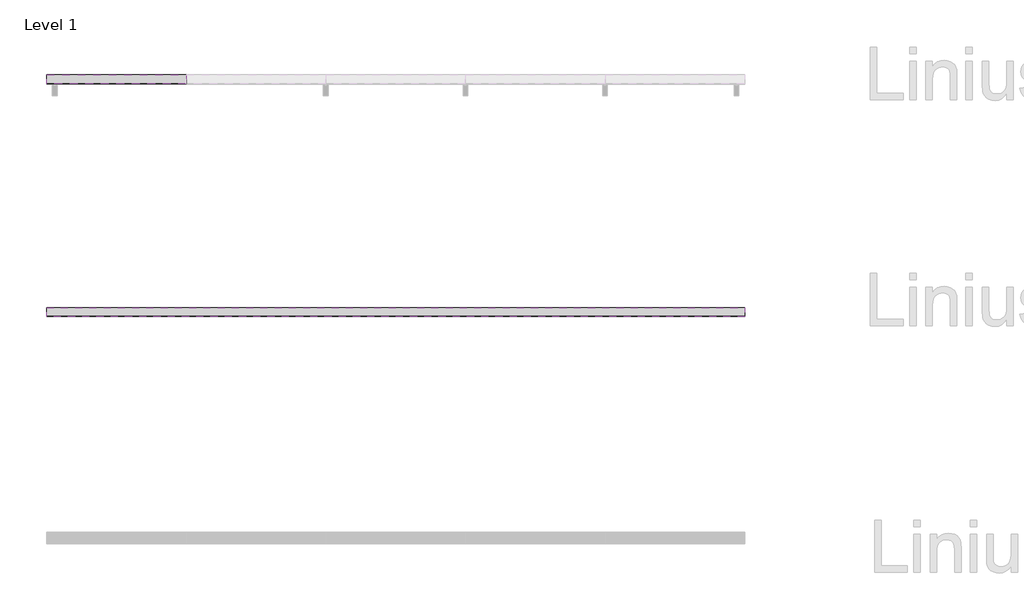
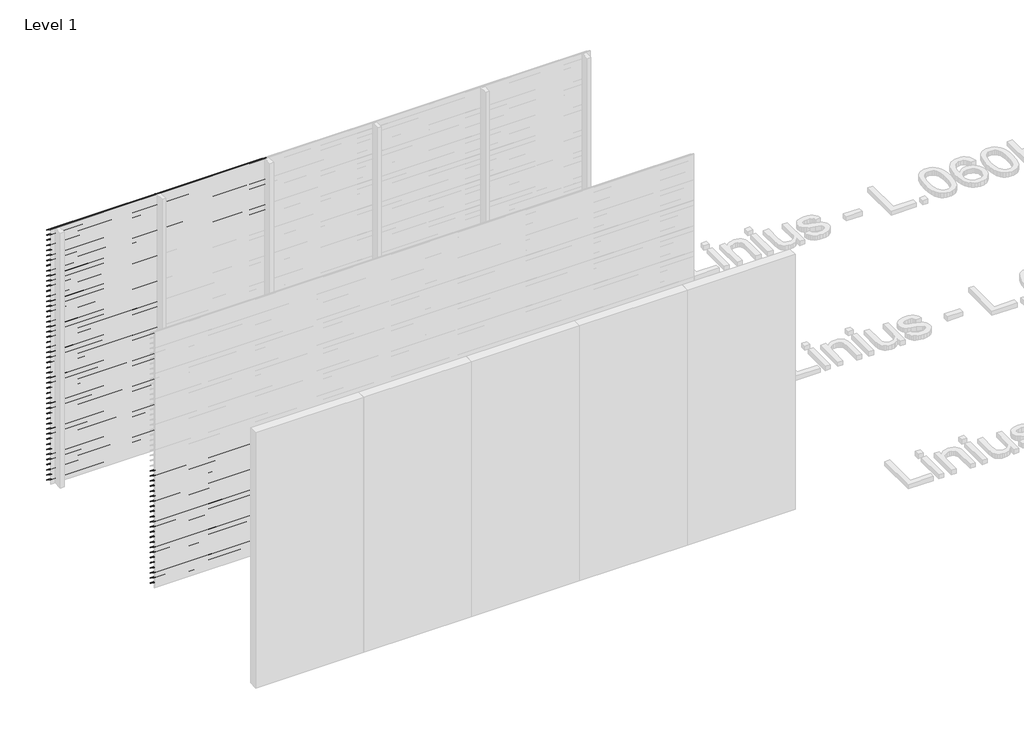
# One storey, part 26 of 153: 85 proxies.
"""IFC4 building model written with IfcOpenShell, lengths in millimetres."""

from ifc_helpers import new_model, si_unit, frame, origin, place, context, project, spatial, polyline, outline, extrude, element, save

model = new_model("IFC4")

# Units and contexts
model_context = context("Model", 3, world=origin())
ifc_project = project(units=[si_unit("LENGTHUNIT", "METRE", prefix="MILLI")], contexts=[model_context])

# Site, building, storey
site = spatial("IfcSite", under=ifc_project)
building = spatial("IfcBuilding", under=site)
storey = spatial("IfcBuildingStorey", under=building, Name="Level 1", Elevation=0.0)

# Proxies
placement = place(None, origin())
element("IfcBuildingElementProxy", 1, Name="Wall Sweeps", at=placement, inside=storey, context=model_context, shape_type="SweptSolid", body=[
    extrude(outline(polyline([(29061.0540136, 2946.0), (29061.0540136, 2940.0), (29059.8040136, 2940.7216933), (29059.8040136, 2945.2538091), (28983.0540136, 2993.9915103), (28983.0540136, 3000.0), (28984.3040136, 3000.0), (28984.3040136, 2994.7377012), (29061.0540136, 2946.0)])), frame((466.6208097, 0.0, 0.0), z_axis=(1.0, 0.0, 0.0), x_axis=(0.0, 1.0, 0.0)), (0.0, 0.0, 1.0), 1200.0000002),
])
element("IfcBuildingElementProxy", 2, Name="Wall Sweeps", at=placement, inside=storey, context=model_context, shape_type="SweptSolid", body=[
    extrude(outline(polyline([(29061.0540136, 2886.0), (29061.0540136, 2880.0), (29059.8040136, 2880.7216933), (29059.8040136, 2885.2538091), (28983.0540136, 2933.9915103), (28983.0540136, 2940.0), (28984.3040136, 2940.0), (28984.3040136, 2934.7377012), (29061.0540136, 2886.0)])), frame((466.6208097, 0.0, 0.0), z_axis=(1.0, 0.0, 0.0), x_axis=(0.0, 1.0, 0.0)), (0.0, 0.0, 1.0), 1200.0000002),
])
element("IfcBuildingElementProxy", 3, Name="Wall Sweeps", at=placement, inside=storey, context=model_context, shape_type="SweptSolid", body=[
    extrude(outline(polyline([(29061.0540136, 2826.0), (29061.0540136, 2820.0), (29059.8040136, 2820.7216933), (29059.8040136, 2825.2538091), (28983.0540136, 2873.9915103), (28983.0540136, 2880.0), (28984.3040136, 2880.0), (28984.3040136, 2874.7377012), (29061.0540136, 2826.0)])), frame((466.6208097, 0.0, 0.0), z_axis=(1.0, 0.0, 0.0), x_axis=(0.0, 1.0, 0.0)), (0.0, 0.0, 1.0), 1200.0000002),
])
element("IfcBuildingElementProxy", 4, Name="Wall Sweeps", at=placement, inside=storey, context=model_context, shape_type="SweptSolid", body=[
    extrude(outline(polyline([(29061.0540136, 2766.0), (29061.0540136, 2760.0), (29059.8040136, 2760.7216933), (29059.8040136, 2765.2538091), (28983.0540136, 2813.9915103), (28983.0540136, 2820.0), (28984.3040136, 2820.0), (28984.3040136, 2814.7377012), (29061.0540136, 2766.0)])), frame((466.6208097, 0.0, 0.0), z_axis=(1.0, 0.0, 0.0), x_axis=(0.0, 1.0, 0.0)), (0.0, 0.0, 1.0), 1200.0000002),
])
element("IfcBuildingElementProxy", 5, Name="Wall Sweeps", at=placement, inside=storey, context=model_context, shape_type="SweptSolid", body=[
    extrude(outline(polyline([(29061.0540136, 2706.0), (29061.0540136, 2700.0), (29059.8040136, 2700.7216933), (29059.8040136, 2705.2538091), (28983.0540136, 2753.9915103), (28983.0540136, 2760.0), (28984.3040136, 2760.0), (28984.3040136, 2754.7377012), (29061.0540136, 2706.0)])), frame((466.6208097, 0.0, 0.0), z_axis=(1.0, 0.0, 0.0), x_axis=(0.0, 1.0, 0.0)), (0.0, 0.0, 1.0), 1200.0000002),
])
element("IfcBuildingElementProxy", 6, Name="Wall Sweeps", at=placement, inside=storey, context=model_context, shape_type="SweptSolid", body=[
    extrude(outline(polyline([(29061.0540136, 2646.0), (29061.0540136, 2640.0), (29059.8040136, 2640.7216933), (29059.8040136, 2645.2538091), (28983.0540136, 2693.9915103), (28983.0540136, 2700.0), (28984.3040136, 2700.0), (28984.3040136, 2694.7377012), (29061.0540136, 2646.0)])), frame((466.6208097, 0.0, 0.0), z_axis=(1.0, 0.0, 0.0), x_axis=(0.0, 1.0, 0.0)), (0.0, 0.0, 1.0), 1200.0000002),
])
element("IfcBuildingElementProxy", 7, Name="Wall Sweeps", at=placement, inside=storey, context=model_context, shape_type="SweptSolid", body=[
    extrude(outline(polyline([(29061.0540136, 2586.0), (29061.0540136, 2580.0), (29059.8040136, 2580.7216933), (29059.8040136, 2585.2538091), (28983.0540136, 2633.9915103), (28983.0540136, 2640.0), (28984.3040136, 2640.0), (28984.3040136, 2634.7377012), (29061.0540136, 2586.0)])), frame((466.6208097, 0.0, 0.0), z_axis=(1.0, 0.0, 0.0), x_axis=(0.0, 1.0, 0.0)), (0.0, 0.0, 1.0), 1200.0000002),
])
element("IfcBuildingElementProxy", 8, Name="Wall Sweeps", at=placement, inside=storey, context=model_context, shape_type="SweptSolid", body=[
    extrude(outline(polyline([(29061.0540136, 2526.0), (29061.0540136, 2520.0), (29059.8040136, 2520.7216933), (29059.8040136, 2525.2538091), (28983.0540136, 2573.9915103), (28983.0540136, 2580.0), (28984.3040136, 2580.0), (28984.3040136, 2574.7377012), (29061.0540136, 2526.0)])), frame((466.6208097, 0.0, 0.0), z_axis=(1.0, 0.0, 0.0), x_axis=(0.0, 1.0, 0.0)), (0.0, 0.0, 1.0), 1200.0000002),
])
element("IfcBuildingElementProxy", 9, Name="Wall Sweeps", at=placement, inside=storey, context=model_context, shape_type="SweptSolid", body=[
    extrude(outline(polyline([(29061.0540136, 2466.0), (29061.0540136, 2460.0), (29059.8040136, 2460.7216933), (29059.8040136, 2465.2538091), (28983.0540136, 2513.9915103), (28983.0540136, 2520.0), (28984.3040136, 2520.0), (28984.3040136, 2514.7377012), (29061.0540136, 2466.0)])), frame((466.6208097, 0.0, 0.0), z_axis=(1.0, 0.0, 0.0), x_axis=(0.0, 1.0, 0.0)), (0.0, 0.0, 1.0), 1200.0000002),
])
element("IfcBuildingElementProxy", 10, Name="Wall Sweeps", at=placement, inside=storey, context=model_context, shape_type="SweptSolid", body=[
    extrude(outline(polyline([(29061.0540136, 2406.0), (29061.0540136, 2400.0), (29059.8040136, 2400.7216933), (29059.8040136, 2405.2538091), (28983.0540136, 2453.9915103), (28983.0540136, 2460.0), (28984.3040136, 2460.0), (28984.3040136, 2454.7377012), (29061.0540136, 2406.0)])), frame((466.6208097, 0.0, 0.0), z_axis=(1.0, 0.0, 0.0), x_axis=(0.0, 1.0, 0.0)), (0.0, 0.0, 1.0), 1200.0000002),
])
element("IfcBuildingElementProxy", 11, Name="Wall Sweeps", at=placement, inside=storey, context=model_context, shape_type="SweptSolid", body=[
    extrude(outline(polyline([(29061.0540136, 2346.0), (29061.0540136, 2340.0), (29059.8040136, 2340.7216933), (29059.8040136, 2345.2538091), (28983.0540136, 2393.9915103), (28983.0540136, 2400.0), (28984.3040136, 2400.0), (28984.3040136, 2394.7377012), (29061.0540136, 2346.0)])), frame((466.6208097, 0.0, 0.0), z_axis=(1.0, 0.0, 0.0), x_axis=(0.0, 1.0, 0.0)), (0.0, 0.0, 1.0), 1200.0000002),
])
element("IfcBuildingElementProxy", 12, Name="Wall Sweeps", at=placement, inside=storey, context=model_context, shape_type="SweptSolid", body=[
    extrude(outline(polyline([(29061.0540136, 2286.0), (29061.0540136, 2280.0), (29059.8040136, 2280.7216933), (29059.8040136, 2285.2538091), (28983.0540136, 2333.9915103), (28983.0540136, 2340.0), (28984.3040136, 2340.0), (28984.3040136, 2334.7377012), (29061.0540136, 2286.0)])), frame((466.6208097, 0.0, 0.0), z_axis=(1.0, 0.0, 0.0), x_axis=(0.0, 1.0, 0.0)), (0.0, 0.0, 1.0), 1200.0000002),
])
element("IfcBuildingElementProxy", 13, Name="Wall Sweeps", at=placement, inside=storey, context=model_context, shape_type="SweptSolid", body=[
    extrude(outline(polyline([(29061.0540136, 2226.0), (29061.0540136, 2220.0), (29059.8040136, 2220.7216933), (29059.8040136, 2225.2538091), (28983.0540136, 2273.9915103), (28983.0540136, 2280.0), (28984.3040136, 2280.0), (28984.3040136, 2274.7377012), (29061.0540136, 2226.0)])), frame((466.6208097, 0.0, 0.0), z_axis=(1.0, 0.0, 0.0), x_axis=(0.0, 1.0, 0.0)), (0.0, 0.0, 1.0), 1200.0000002),
])
element("IfcBuildingElementProxy", 14, Name="Wall Sweeps", at=placement, inside=storey, context=model_context, shape_type="SweptSolid", body=[
    extrude(outline(polyline([(29061.0540136, 2166.0), (29061.0540136, 2160.0), (29059.8040136, 2160.7216933), (29059.8040136, 2165.2538091), (28983.0540136, 2213.9915103), (28983.0540136, 2220.0), (28984.3040136, 2220.0), (28984.3040136, 2214.7377012), (29061.0540136, 2166.0)])), frame((466.6208097, 0.0, 0.0), z_axis=(1.0, 0.0, 0.0), x_axis=(0.0, 1.0, 0.0)), (0.0, 0.0, 1.0), 1200.0000002),
])
element("IfcBuildingElementProxy", 15, Name="Wall Sweeps", at=placement, inside=storey, context=model_context, shape_type="SweptSolid", body=[
    extrude(outline(polyline([(29061.0540136, 2106.0), (29061.0540136, 2100.0), (29059.8040136, 2100.7216933), (29059.8040136, 2105.2538091), (28983.0540136, 2153.9915103), (28983.0540136, 2160.0), (28984.3040136, 2160.0), (28984.3040136, 2154.7377012), (29061.0540136, 2106.0)])), frame((466.6208097, 0.0, 0.0), z_axis=(1.0, 0.0, 0.0), x_axis=(0.0, 1.0, 0.0)), (0.0, 0.0, 1.0), 1200.0000002),
])
element("IfcBuildingElementProxy", 16, Name="Wall Sweeps", at=placement, inside=storey, context=model_context, shape_type="SweptSolid", body=[
    extrude(outline(polyline([(29061.0540136, 2046.0), (29061.0540136, 2040.0), (29059.8040136, 2040.7216933), (29059.8040136, 2045.2538091), (28983.0540136, 2093.9915103), (28983.0540136, 2100.0), (28984.3040136, 2100.0), (28984.3040136, 2094.7377012), (29061.0540136, 2046.0)])), frame((466.6208097, 0.0, 0.0), z_axis=(1.0, 0.0, 0.0), x_axis=(0.0, 1.0, 0.0)), (0.0, 0.0, 1.0), 1200.0000002),
])
element("IfcBuildingElementProxy", 17, Name="Wall Sweeps", at=placement, inside=storey, context=model_context, shape_type="SweptSolid", body=[
    extrude(outline(polyline([(29061.0540136, 1986.0), (29061.0540136, 1980.0), (29059.8040136, 1980.7216933), (29059.8040136, 1985.2538091), (28983.0540136, 2033.9915103), (28983.0540136, 2040.0), (28984.3040136, 2040.0), (28984.3040136, 2034.7377012), (29061.0540136, 1986.0)])), frame((466.6208097, 0.0, 0.0), z_axis=(1.0, 0.0, 0.0), x_axis=(0.0, 1.0, 0.0)), (0.0, 0.0, 1.0), 1200.0000002),
])
element("IfcBuildingElementProxy", 18, Name="Wall Sweeps", at=placement, inside=storey, context=model_context, shape_type="SweptSolid", body=[
    extrude(outline(polyline([(29061.0540136, 1926.0), (29061.0540136, 1920.0), (29059.8040136, 1920.7216933), (29059.8040136, 1925.2538091), (28983.0540136, 1973.9915103), (28983.0540136, 1980.0), (28984.3040136, 1980.0), (28984.3040136, 1974.7377012), (29061.0540136, 1926.0)])), frame((466.6208097, 0.0, 0.0), z_axis=(1.0, 0.0, 0.0), x_axis=(0.0, 1.0, 0.0)), (0.0, 0.0, 1.0), 1200.0000002),
])
element("IfcBuildingElementProxy", 19, Name="Wall Sweeps", at=placement, inside=storey, context=model_context, shape_type="SweptSolid", body=[
    extrude(outline(polyline([(29061.0540136, 1866.0), (29061.0540136, 1860.0), (29059.8040136, 1860.7216933), (29059.8040136, 1865.2538091), (28983.0540136, 1913.9915103), (28983.0540136, 1920.0), (28984.3040136, 1920.0), (28984.3040136, 1914.7377012), (29061.0540136, 1866.0)])), frame((466.6208097, 0.0, 0.0), z_axis=(1.0, 0.0, 0.0), x_axis=(0.0, 1.0, 0.0)), (0.0, 0.0, 1.0), 1200.0000002),
])
element("IfcBuildingElementProxy", 20, Name="Wall Sweeps", at=placement, inside=storey, context=model_context, shape_type="SweptSolid", body=[
    extrude(outline(polyline([(29061.0540136, 1806.0), (29061.0540136, 1800.0), (29059.8040136, 1800.7216933), (29059.8040136, 1805.2538091), (28983.0540136, 1853.9915103), (28983.0540136, 1860.0), (28984.3040136, 1860.0), (28984.3040136, 1854.7377012), (29061.0540136, 1806.0)])), frame((466.6208097, 0.0, 0.0), z_axis=(1.0, 0.0, 0.0), x_axis=(0.0, 1.0, 0.0)), (0.0, 0.0, 1.0), 1200.0000002),
])
element("IfcBuildingElementProxy", 21, Name="Wall Sweeps", at=placement, inside=storey, context=model_context, shape_type="SweptSolid", body=[
    extrude(outline(polyline([(29061.0540136, 1746.0), (29061.0540136, 1740.0), (29059.8040136, 1740.7216933), (29059.8040136, 1745.2538091), (28983.0540136, 1793.9915103), (28983.0540136, 1800.0), (28984.3040136, 1800.0), (28984.3040136, 1794.7377012), (29061.0540136, 1746.0)])), frame((466.6208097, 0.0, 0.0), z_axis=(1.0, 0.0, 0.0), x_axis=(0.0, 1.0, 0.0)), (0.0, 0.0, 1.0), 1200.0000002),
])
element("IfcBuildingElementProxy", 22, Name="Wall Sweeps", at=placement, inside=storey, context=model_context, shape_type="SweptSolid", body=[
    extrude(outline(polyline([(29061.0540136, 1686.0), (29061.0540136, 1680.0), (29059.8040136, 1680.7216933), (29059.8040136, 1685.2538091), (28983.0540136, 1733.9915103), (28983.0540136, 1740.0), (28984.3040136, 1740.0), (28984.3040136, 1734.7377012), (29061.0540136, 1686.0)])), frame((466.6208097, 0.0, 0.0), z_axis=(1.0, 0.0, 0.0), x_axis=(0.0, 1.0, 0.0)), (0.0, 0.0, 1.0), 1200.0000002),
])
element("IfcBuildingElementProxy", 23, Name="Wall Sweeps", at=placement, inside=storey, context=model_context, shape_type="SweptSolid", body=[
    extrude(outline(polyline([(29061.0540136, 1626.0), (29061.0540136, 1620.0), (29059.8040136, 1620.7216933), (29059.8040136, 1625.2538091), (28983.0540136, 1673.9915103), (28983.0540136, 1680.0), (28984.3040136, 1680.0), (28984.3040136, 1674.7377012), (29061.0540136, 1626.0)])), frame((466.6208097, 0.0, 0.0), z_axis=(1.0, 0.0, 0.0), x_axis=(0.0, 1.0, 0.0)), (0.0, 0.0, 1.0), 1200.0000002),
])
element("IfcBuildingElementProxy", 24, Name="Wall Sweeps", at=placement, inside=storey, context=model_context, shape_type="SweptSolid", body=[
    extrude(outline(polyline([(29061.0540136, 1566.0), (29061.0540136, 1560.0), (29059.8040136, 1560.7216933), (29059.8040136, 1565.2538091), (28983.0540136, 1613.9915103), (28983.0540136, 1620.0), (28984.3040136, 1620.0), (28984.3040136, 1614.7377012), (29061.0540136, 1566.0)])), frame((466.6208097, 0.0, 0.0), z_axis=(1.0, 0.0, 0.0), x_axis=(0.0, 1.0, 0.0)), (0.0, 0.0, 1.0), 1200.0000002),
])
element("IfcBuildingElementProxy", 25, Name="Wall Sweeps", at=placement, inside=storey, context=model_context, shape_type="SweptSolid", body=[
    extrude(outline(polyline([(29061.0540136, 1506.0), (29061.0540136, 1500.0), (29059.8040136, 1500.7216933), (29059.8040136, 1505.2538091), (28983.0540136, 1553.9915103), (28983.0540136, 1560.0), (28984.3040136, 1560.0), (28984.3040136, 1554.7377012), (29061.0540136, 1506.0)])), frame((466.6208097, 0.0, 0.0), z_axis=(1.0, 0.0, 0.0), x_axis=(0.0, 1.0, 0.0)), (0.0, 0.0, 1.0), 1200.0000002),
])
element("IfcBuildingElementProxy", 26, Name="Wall Sweeps", at=placement, inside=storey, context=model_context, shape_type="SweptSolid", body=[
    extrude(outline(polyline([(29061.0540136, 1446.0), (29061.0540136, 1440.0), (29059.8040136, 1440.7216933), (29059.8040136, 1445.2538091), (28983.0540136, 1493.9915103), (28983.0540136, 1500.0), (28984.3040136, 1500.0), (28984.3040136, 1494.7377012), (29061.0540136, 1446.0)])), frame((466.6208097, 0.0, 0.0), z_axis=(1.0, 0.0, 0.0), x_axis=(0.0, 1.0, 0.0)), (0.0, 0.0, 1.0), 1200.0000002),
])
element("IfcBuildingElementProxy", 27, Name="Wall Sweeps", at=placement, inside=storey, context=model_context, shape_type="SweptSolid", body=[
    extrude(outline(polyline([(29061.0540136, 1386.0), (29061.0540136, 1380.0), (29059.8040136, 1380.7216933), (29059.8040136, 1385.2538091), (28983.0540136, 1433.9915103), (28983.0540136, 1440.0), (28984.3040136, 1440.0), (28984.3040136, 1434.7377012), (29061.0540136, 1386.0)])), frame((466.6208097, 0.0, 0.0), z_axis=(1.0, 0.0, 0.0), x_axis=(0.0, 1.0, 0.0)), (0.0, 0.0, 1.0), 1200.0000002),
])
element("IfcBuildingElementProxy", 28, Name="Wall Sweeps", at=placement, inside=storey, context=model_context, shape_type="SweptSolid", body=[
    extrude(outline(polyline([(29061.0540136, 1326.0), (29061.0540136, 1320.0), (29059.8040136, 1320.7216933), (29059.8040136, 1325.2538091), (28983.0540136, 1373.9915103), (28983.0540136, 1380.0), (28984.3040136, 1380.0), (28984.3040136, 1374.7377012), (29061.0540136, 1326.0)])), frame((466.6208097, 0.0, 0.0), z_axis=(1.0, 0.0, 0.0), x_axis=(0.0, 1.0, 0.0)), (0.0, 0.0, 1.0), 1200.0000002),
])
element("IfcBuildingElementProxy", 29, Name="Wall Sweeps", at=placement, inside=storey, context=model_context, shape_type="SweptSolid", body=[
    extrude(outline(polyline([(29061.0540136, 1266.0), (29061.0540136, 1260.0), (29059.8040136, 1260.7216933), (29059.8040136, 1265.2538091), (28983.0540136, 1313.9915103), (28983.0540136, 1320.0), (28984.3040136, 1320.0), (28984.3040136, 1314.7377012), (29061.0540136, 1266.0)])), frame((466.6208097, 0.0, 0.0), z_axis=(1.0, 0.0, 0.0), x_axis=(0.0, 1.0, 0.0)), (0.0, 0.0, 1.0), 1200.0000002),
])
element("IfcBuildingElementProxy", 30, Name="Wall Sweeps", at=placement, inside=storey, context=model_context, shape_type="SweptSolid", body=[
    extrude(outline(polyline([(29061.0540136, 1206.0), (29061.0540136, 1200.0), (29059.8040136, 1200.7216933), (29059.8040136, 1205.2538091), (28983.0540136, 1253.9915103), (28983.0540136, 1260.0), (28984.3040136, 1260.0), (28984.3040136, 1254.7377012), (29061.0540136, 1206.0)])), frame((466.6208097, 0.0, 0.0), z_axis=(1.0, 0.0, 0.0), x_axis=(0.0, 1.0, 0.0)), (0.0, 0.0, 1.0), 1200.0000002),
])
element("IfcBuildingElementProxy", 31, Name="Wall Sweeps", at=placement, inside=storey, context=model_context, shape_type="SweptSolid", body=[
    extrude(outline(polyline([(29061.0540136, 1146.0), (29061.0540136, 1140.0), (29059.8040136, 1140.7216933), (29059.8040136, 1145.2538091), (28983.0540136, 1193.9915103), (28983.0540136, 1200.0), (28984.3040136, 1200.0), (28984.3040136, 1194.7377012), (29061.0540136, 1146.0)])), frame((466.6208097, 0.0, 0.0), z_axis=(1.0, 0.0, 0.0), x_axis=(0.0, 1.0, 0.0)), (0.0, 0.0, 1.0), 1200.0000002),
])
element("IfcBuildingElementProxy", 32, Name="Wall Sweeps", at=placement, inside=storey, context=model_context, shape_type="SweptSolid", body=[
    extrude(outline(polyline([(29061.0540136, 1086.0), (29061.0540136, 1080.0), (29059.8040136, 1080.7216933), (29059.8040136, 1085.2538091), (28983.0540136, 1133.9915103), (28983.0540136, 1140.0), (28984.3040136, 1140.0), (28984.3040136, 1134.7377012), (29061.0540136, 1086.0)])), frame((466.6208097, 0.0, 0.0), z_axis=(1.0, 0.0, 0.0), x_axis=(0.0, 1.0, 0.0)), (0.0, 0.0, 1.0), 1200.0000002),
])
element("IfcBuildingElementProxy", 33, Name="Wall Sweeps", at=placement, inside=storey, context=model_context, shape_type="SweptSolid", body=[
    extrude(outline(polyline([(29061.0540136, 1026.0), (29061.0540136, 1020.0), (29059.8040136, 1020.7216933), (29059.8040136, 1025.2538091), (28983.0540136, 1073.9915103), (28983.0540136, 1080.0), (28984.3040136, 1080.0), (28984.3040136, 1074.7377012), (29061.0540136, 1026.0)])), frame((466.6208097, 0.0, 0.0), z_axis=(1.0, 0.0, 0.0), x_axis=(0.0, 1.0, 0.0)), (0.0, 0.0, 1.0), 1200.0000002),
])
element("IfcBuildingElementProxy", 34, Name="Wall Sweeps", at=placement, inside=storey, context=model_context, shape_type="SweptSolid", body=[
    extrude(outline(polyline([(29061.0540136, 966.0), (29061.0540136, 960.0), (29059.8040136, 960.7216933), (29059.8040136, 965.2538091), (28983.0540136, 1013.9915103), (28983.0540136, 1020.0), (28984.3040136, 1020.0), (28984.3040136, 1014.7377012), (29061.0540136, 966.0)])), frame((466.6208097, 0.0, 0.0), z_axis=(1.0, 0.0, 0.0), x_axis=(0.0, 1.0, 0.0)), (0.0, 0.0, 1.0), 1200.0000002),
])
element("IfcBuildingElementProxy", 35, Name="Wall Sweeps", at=placement, inside=storey, context=model_context, shape_type="SweptSolid", body=[
    extrude(outline(polyline([(29061.0540136, 906.0), (29061.0540136, 900.0), (29059.8040136, 900.7216933), (29059.8040136, 905.2538091), (28983.0540136, 953.9915103), (28983.0540136, 960.0), (28984.3040136, 960.0), (28984.3040136, 954.7377012), (29061.0540136, 906.0)])), frame((466.6208097, 0.0, 0.0), z_axis=(1.0, 0.0, 0.0), x_axis=(0.0, 1.0, 0.0)), (0.0, 0.0, 1.0), 1200.0000002),
])
element("IfcBuildingElementProxy", 36, Name="Wall Sweeps", at=placement, inside=storey, context=model_context, shape_type="SweptSolid", body=[
    extrude(outline(polyline([(29061.0540136, 846.0), (29061.0540136, 840.0), (29059.8040136, 840.7216933), (29059.8040136, 845.2538091), (28983.0540136, 893.9915103), (28983.0540136, 900.0), (28984.3040136, 900.0), (28984.3040136, 894.7377012), (29061.0540136, 846.0)])), frame((466.6208097, 0.0, 0.0), z_axis=(1.0, 0.0, 0.0), x_axis=(0.0, 1.0, 0.0)), (0.0, 0.0, 1.0), 1200.0000002),
])
element("IfcBuildingElementProxy", 37, Name="Wall Sweeps", at=placement, inside=storey, context=model_context, shape_type="SweptSolid", body=[
    extrude(outline(polyline([(29061.0540136, 786.0), (29061.0540136, 780.0), (29059.8040136, 780.7216933), (29059.8040136, 785.2538091), (28983.0540136, 833.9915103), (28983.0540136, 840.0), (28984.3040136, 840.0), (28984.3040136, 834.7377012), (29061.0540136, 786.0)])), frame((466.6208097, 0.0, 0.0), z_axis=(1.0, 0.0, 0.0), x_axis=(0.0, 1.0, 0.0)), (0.0, 0.0, 1.0), 1200.0000002),
])
element("IfcBuildingElementProxy", 38, Name="Wall Sweeps", at=placement, inside=storey, context=model_context, shape_type="SweptSolid", body=[
    extrude(outline(polyline([(29061.0540136, 726.0), (29061.0540136, 720.0), (29059.8040136, 720.7216933), (29059.8040136, 725.2538091), (28983.0540136, 773.9915103), (28983.0540136, 780.0), (28984.3040136, 780.0), (28984.3040136, 774.7377012), (29061.0540136, 726.0)])), frame((466.6208097, 0.0, 0.0), z_axis=(1.0, 0.0, 0.0), x_axis=(0.0, 1.0, 0.0)), (0.0, 0.0, 1.0), 1200.0000002),
])
element("IfcBuildingElementProxy", 39, Name="Wall Sweeps", at=placement, inside=storey, context=model_context, shape_type="SweptSolid", body=[
    extrude(outline(polyline([(29061.0540136, 666.0), (29061.0540136, 660.0), (29059.8040136, 660.7216933), (29059.8040136, 665.2538091), (28983.0540136, 713.9915103), (28983.0540136, 720.0), (28984.3040136, 720.0), (28984.3040136, 714.7377012), (29061.0540136, 666.0)])), frame((466.6208097, 0.0, 0.0), z_axis=(1.0, 0.0, 0.0), x_axis=(0.0, 1.0, 0.0)), (0.0, 0.0, 1.0), 1200.0000002),
])
element("IfcBuildingElementProxy", 40, Name="Wall Sweeps", at=placement, inside=storey, context=model_context, shape_type="SweptSolid", body=[
    extrude(outline(polyline([(29061.0540136, 606.0), (29061.0540136, 600.0), (29059.8040136, 600.7216933), (29059.8040136, 605.2538091), (28983.0540136, 653.9915103), (28983.0540136, 660.0), (28984.3040136, 660.0), (28984.3040136, 654.7377012), (29061.0540136, 606.0)])), frame((466.6208097, 0.0, 0.0), z_axis=(1.0, 0.0, 0.0), x_axis=(0.0, 1.0, 0.0)), (0.0, 0.0, 1.0), 1200.0000002),
])
element("IfcBuildingElementProxy", 41, Name="Wall Sweeps", at=placement, inside=storey, context=model_context, shape_type="SweptSolid", body=[
    extrude(outline(polyline([(29061.0540136, 546.0), (29061.0540136, 540.0), (29059.8040136, 540.7216933), (29059.8040136, 545.2538091), (28983.0540136, 593.9915103), (28983.0540136, 600.0), (28984.3040136, 600.0), (28984.3040136, 594.7377012), (29061.0540136, 546.0)])), frame((466.6208097, 0.0, 0.0), z_axis=(1.0, 0.0, 0.0), x_axis=(0.0, 1.0, 0.0)), (0.0, 0.0, 1.0), 1200.0000002),
])
element("IfcBuildingElementProxy", 42, Name="Wall Sweeps", at=placement, inside=storey, context=model_context, shape_type="SweptSolid", body=[
    extrude(outline(polyline([(29061.0540136, 486.0), (29061.0540136, 480.0), (29059.8040136, 480.7216933), (29059.8040136, 485.2538091), (28983.0540136, 533.9915103), (28983.0540136, 540.0), (28984.3040136, 540.0), (28984.3040136, 534.7377012), (29061.0540136, 486.0)])), frame((466.6208097, 0.0, 0.0), z_axis=(1.0, 0.0, 0.0), x_axis=(0.0, 1.0, 0.0)), (0.0, 0.0, 1.0), 1200.0000002),
])
element("IfcBuildingElementProxy", 43, Name="Wall Sweeps", at=placement, inside=storey, context=model_context, shape_type="SweptSolid", body=[
    extrude(outline(polyline([(29061.0540136, 426.0), (29061.0540136, 420.0), (29059.8040136, 420.7216933), (29059.8040136, 425.2538091), (28983.0540136, 473.9915103), (28983.0540136, 480.0), (28984.3040136, 480.0), (28984.3040136, 474.7377012), (29061.0540136, 426.0)])), frame((466.6208097, 0.0, 0.0), z_axis=(1.0, 0.0, 0.0), x_axis=(0.0, 1.0, 0.0)), (0.0, 0.0, 1.0), 1200.0000002),
])
element("IfcBuildingElementProxy", 44, Name="Wall Sweeps", at=placement, inside=storey, context=model_context, shape_type="SweptSolid", body=[
    extrude(outline(polyline([(29061.0540136, 366.0), (29061.0540136, 360.0), (29059.8040136, 360.7216933), (29059.8040136, 365.2538091), (28983.0540136, 413.9915103), (28983.0540136, 420.0), (28984.3040136, 420.0), (28984.3040136, 414.7377012), (29061.0540136, 366.0)])), frame((466.6208097, 0.0, 0.0), z_axis=(1.0, 0.0, 0.0), x_axis=(0.0, 1.0, 0.0)), (0.0, 0.0, 1.0), 1200.0000002),
])
element("IfcBuildingElementProxy", 45, Name="Wall Sweeps", at=placement, inside=storey, context=model_context, shape_type="SweptSolid", body=[
    extrude(outline(polyline([(29061.0540136, 306.0), (29061.0540136, 300.0), (29059.8040136, 300.7216933), (29059.8040136, 305.2538091), (28983.0540136, 353.9915103), (28983.0540136, 360.0), (28984.3040136, 360.0), (28984.3040136, 354.7377012), (29061.0540136, 306.0)])), frame((466.6208097, 0.0, 0.0), z_axis=(1.0, 0.0, 0.0), x_axis=(0.0, 1.0, 0.0)), (0.0, 0.0, 1.0), 1200.0000002),
])
element("IfcBuildingElementProxy", 46, Name="Wall Sweeps", at=placement, inside=storey, context=model_context, shape_type="SweptSolid", body=[
    extrude(outline(polyline([(29061.0540136, 246.0), (29061.0540136, 240.0), (29059.8040136, 240.7216933), (29059.8040136, 245.2538091), (28983.0540136, 293.9915103), (28983.0540136, 300.0), (28984.3040136, 300.0), (28984.3040136, 294.7377012), (29061.0540136, 246.0)])), frame((466.6208097, 0.0, 0.0), z_axis=(1.0, 0.0, 0.0), x_axis=(0.0, 1.0, 0.0)), (0.0, 0.0, 1.0), 1200.0000002),
])
element("IfcBuildingElementProxy", 47, Name="Wall Sweeps", at=placement, inside=storey, context=model_context, shape_type="SweptSolid", body=[
    extrude(outline(polyline([(29061.0540136, 186.0), (29061.0540136, 180.0), (29059.8040136, 180.7216933), (29059.8040136, 185.2538091), (28983.0540136, 233.9915103), (28983.0540136, 240.0), (28984.3040136, 240.0), (28984.3040136, 234.7377012), (29061.0540136, 186.0)])), frame((466.6208097, 0.0, 0.0), z_axis=(1.0, 0.0, 0.0), x_axis=(0.0, 1.0, 0.0)), (0.0, 0.0, 1.0), 1200.0000002),
])
element("IfcBuildingElementProxy", 48, Name="Wall Sweeps", at=placement, inside=storey, context=model_context, shape_type="SweptSolid", body=[
    extrude(outline(polyline([(29061.0540136, 126.0), (29061.0540136, 120.0), (29059.8040136, 120.7216933), (29059.8040136, 125.2538091), (28983.0540136, 173.9915103), (28983.0540136, 180.0), (28984.3040136, 180.0), (28984.3040136, 174.7377012), (29061.0540136, 126.0)])), frame((466.6208097, 0.0, 0.0), z_axis=(1.0, 0.0, 0.0), x_axis=(0.0, 1.0, 0.0)), (0.0, 0.0, 1.0), 1200.0000002),
])
element("IfcBuildingElementProxy", 49, Name="Wall Sweeps", at=placement, inside=storey, context=model_context, shape_type="SweptSolid", body=[
    extrude(outline(polyline([(29061.0540136, 66.0), (29061.0540136, 60.0), (29059.8040136, 60.7216933), (29059.8040136, 65.2538091), (28983.0540136, 113.9915103), (28983.0540136, 120.0), (28984.3040136, 120.0), (28984.3040136, 114.7377012), (29061.0540136, 66.0)])), frame((466.6208097, 0.0, 0.0), z_axis=(1.0, 0.0, 0.0), x_axis=(0.0, 1.0, 0.0)), (0.0, 0.0, 1.0), 1200.0000002),
])
element("IfcBuildingElementProxy", 50, Name="Wall Sweeps", at=placement, inside=storey, context=model_context, shape_type="SweptSolid", body=[
    extrude(outline(polyline([(29061.0540136, 6.0), (29061.0540136, 0.0), (29059.8040136, 0.7216933), (29059.8040136, 5.2538091), (28983.0540136, 53.9915103), (28983.0540136, 60.0), (28984.3040136, 60.0), (28984.3040136, 54.7377012), (29061.0540136, 6.0)])), frame((466.6208097, 0.0, 0.0), z_axis=(1.0, 0.0, 0.0), x_axis=(0.0, 1.0, 0.0)), (0.0, 0.0, 1.0), 1200.0000002),
])
element("IfcBuildingElementProxy", 51, Name="Wall Sweeps", at=placement, inside=storey, context=model_context, shape_type="SweptSolid", body=[
    extrude(outline(polyline([(29061.0540136, 2946.0), (29061.0540136, 2940.0), (29059.8040136, 2940.7216933), (29059.8040136, 2945.2538091), (28983.0540136, 2993.9915103), (28983.0540136, 3000.0), (28984.3040136, 3000.0), (28984.3040136, 2994.7377012), (29061.0540136, 2946.0)])), frame((1666.6208099, 0.0, 0.0), z_axis=(1.0, 0.0, 0.0), x_axis=(0.0, 1.0, 0.0)), (0.0, 0.0, 1.0), 1199.9999999),
])
element("IfcBuildingElementProxy", 52, Name="Wall Sweeps", at=placement, inside=storey, context=model_context, shape_type="SweptSolid", body=[
    extrude(outline(polyline([(29061.0540136, 2886.0), (29061.0540136, 2880.0), (29059.8040136, 2880.7216933), (29059.8040136, 2885.2538091), (28983.0540136, 2933.9915103), (28983.0540136, 2940.0), (28984.3040136, 2940.0), (28984.3040136, 2934.7377012), (29061.0540136, 2886.0)])), frame((1666.6208099, 0.0, 0.0), z_axis=(1.0, 0.0, 0.0), x_axis=(0.0, 1.0, 0.0)), (0.0, 0.0, 1.0), 1199.9999999),
])
element("IfcBuildingElementProxy", 53, Name="Wall Sweeps", at=placement, inside=storey, context=model_context, shape_type="SweptSolid", body=[
    extrude(outline(polyline([(29061.0540136, 2826.0), (29061.0540136, 2820.0), (29059.8040136, 2820.7216933), (29059.8040136, 2825.2538091), (28983.0540136, 2873.9915103), (28983.0540136, 2880.0), (28984.3040136, 2880.0), (28984.3040136, 2874.7377012), (29061.0540136, 2826.0)])), frame((1666.6208099, 0.0, 0.0), z_axis=(1.0, 0.0, 0.0), x_axis=(0.0, 1.0, 0.0)), (0.0, 0.0, 1.0), 1199.9999999),
])
element("IfcBuildingElementProxy", 54, Name="Wall Sweeps", at=placement, inside=storey, context=model_context, shape_type="SweptSolid", body=[
    extrude(outline(polyline([(29061.0540136, 2766.0), (29061.0540136, 2760.0), (29059.8040136, 2760.7216933), (29059.8040136, 2765.2538091), (28983.0540136, 2813.9915103), (28983.0540136, 2820.0), (28984.3040136, 2820.0), (28984.3040136, 2814.7377012), (29061.0540136, 2766.0)])), frame((1666.6208099, 0.0, 0.0), z_axis=(1.0, 0.0, 0.0), x_axis=(0.0, 1.0, 0.0)), (0.0, 0.0, 1.0), 1199.9999999),
])
element("IfcBuildingElementProxy", 55, Name="Wall Sweeps", at=placement, inside=storey, context=model_context, shape_type="SweptSolid", body=[
    extrude(outline(polyline([(29061.0540136, 2706.0), (29061.0540136, 2700.0), (29059.8040136, 2700.7216933), (29059.8040136, 2705.2538091), (28983.0540136, 2753.9915103), (28983.0540136, 2760.0), (28984.3040136, 2760.0), (28984.3040136, 2754.7377012), (29061.0540136, 2706.0)])), frame((1666.6208099, 0.0, 0.0), z_axis=(1.0, 0.0, 0.0), x_axis=(0.0, 1.0, 0.0)), (0.0, 0.0, 1.0), 1199.9999999),
])
element("IfcBuildingElementProxy", 56, Name="Wall Sweeps", at=placement, inside=storey, context=model_context, shape_type="SweptSolid", body=[
    extrude(outline(polyline([(29061.0540136, 2646.0), (29061.0540136, 2640.0), (29059.8040136, 2640.7216933), (29059.8040136, 2645.2538091), (28983.0540136, 2693.9915103), (28983.0540136, 2700.0), (28984.3040136, 2700.0), (28984.3040136, 2694.7377012), (29061.0540136, 2646.0)])), frame((1666.6208099, 0.0, 0.0), z_axis=(1.0, 0.0, 0.0), x_axis=(0.0, 1.0, 0.0)), (0.0, 0.0, 1.0), 1199.9999999),
])
element("IfcBuildingElementProxy", 57, Name="Wall Sweeps", at=placement, inside=storey, context=model_context, shape_type="SweptSolid", body=[
    extrude(outline(polyline([(29061.0540136, 2586.0), (29061.0540136, 2580.0), (29059.8040136, 2580.7216933), (29059.8040136, 2585.2538091), (28983.0540136, 2633.9915103), (28983.0540136, 2640.0), (28984.3040136, 2640.0), (28984.3040136, 2634.7377012), (29061.0540136, 2586.0)])), frame((1666.6208099, 0.0, 0.0), z_axis=(1.0, 0.0, 0.0), x_axis=(0.0, 1.0, 0.0)), (0.0, 0.0, 1.0), 1199.9999999),
])
element("IfcBuildingElementProxy", 58, Name="Wall Sweeps", at=placement, inside=storey, context=model_context, shape_type="SweptSolid", body=[
    extrude(outline(polyline([(29061.0540136, 2526.0), (29061.0540136, 2520.0), (29059.8040136, 2520.7216933), (29059.8040136, 2525.2538091), (28983.0540136, 2573.9915103), (28983.0540136, 2580.0), (28984.3040136, 2580.0), (28984.3040136, 2574.7377012), (29061.0540136, 2526.0)])), frame((1666.6208099, 0.0, 0.0), z_axis=(1.0, 0.0, 0.0), x_axis=(0.0, 1.0, 0.0)), (0.0, 0.0, 1.0), 1199.9999999),
])
element("IfcBuildingElementProxy", 59, Name="Wall Sweeps", at=placement, inside=storey, context=model_context, shape_type="SweptSolid", body=[
    extrude(outline(polyline([(29061.0540136, 2466.0), (29061.0540136, 2460.0), (29059.8040136, 2460.7216933), (29059.8040136, 2465.2538091), (28983.0540136, 2513.9915103), (28983.0540136, 2520.0), (28984.3040136, 2520.0), (28984.3040136, 2514.7377012), (29061.0540136, 2466.0)])), frame((1666.6208099, 0.0, 0.0), z_axis=(1.0, 0.0, 0.0), x_axis=(0.0, 1.0, 0.0)), (0.0, 0.0, 1.0), 1199.9999999),
])
element("IfcBuildingElementProxy", 60, Name="Wall Sweeps", at=placement, inside=storey, context=model_context, shape_type="SweptSolid", body=[
    extrude(outline(polyline([(29061.0540136, 2406.0), (29061.0540136, 2400.0), (29059.8040136, 2400.7216933), (29059.8040136, 2405.2538091), (28983.0540136, 2453.9915103), (28983.0540136, 2460.0), (28984.3040136, 2460.0), (28984.3040136, 2454.7377012), (29061.0540136, 2406.0)])), frame((1666.6208099, 0.0, 0.0), z_axis=(1.0, 0.0, 0.0), x_axis=(0.0, 1.0, 0.0)), (0.0, 0.0, 1.0), 1199.9999999),
])
element("IfcBuildingElementProxy", 61, Name="Wall Sweeps", at=placement, inside=storey, context=model_context, shape_type="SweptSolid", body=[
    extrude(outline(polyline([(29061.0540136, 2346.0), (29061.0540136, 2340.0), (29059.8040136, 2340.7216933), (29059.8040136, 2345.2538091), (28983.0540136, 2393.9915103), (28983.0540136, 2400.0), (28984.3040136, 2400.0), (28984.3040136, 2394.7377012), (29061.0540136, 2346.0)])), frame((1666.6208099, 0.0, 0.0), z_axis=(1.0, 0.0, 0.0), x_axis=(0.0, 1.0, 0.0)), (0.0, 0.0, 1.0), 1199.9999999),
])
element("IfcBuildingElementProxy", 62, Name="Wall Sweeps", at=placement, inside=storey, context=model_context, shape_type="SweptSolid", body=[
    extrude(outline(polyline([(29061.0540136, 2286.0), (29061.0540136, 2280.0), (29059.8040136, 2280.7216933), (29059.8040136, 2285.2538091), (28983.0540136, 2333.9915103), (28983.0540136, 2340.0), (28984.3040136, 2340.0), (28984.3040136, 2334.7377012), (29061.0540136, 2286.0)])), frame((1666.6208099, 0.0, 0.0), z_axis=(1.0, 0.0, 0.0), x_axis=(0.0, 1.0, 0.0)), (0.0, 0.0, 1.0), 1199.9999999),
])
element("IfcBuildingElementProxy", 63, Name="Wall Sweeps", at=placement, inside=storey, context=model_context, shape_type="SweptSolid", body=[
    extrude(outline(polyline([(27061.0540136, 1326.0), (27061.0540136, 1320.0), (27059.8040136, 1320.7216933), (27059.8040136, 1325.2538091), (26983.0540136, 1373.9915103), (26983.0540136, 1380.0), (26984.3040136, 1380.0), (26984.3040136, 1374.7377012), (27061.0540136, 1326.0)])), frame((466.6208097, 0.0, 0.0), z_axis=(1.0, 0.0, 0.0), x_axis=(0.0, 1.0, 0.0)), (0.0, 0.0, 1.0), 6000.0),
])
element("IfcBuildingElementProxy", 64, Name="Wall Sweeps", at=placement, inside=storey, context=model_context, shape_type="SweptSolid", body=[
    extrude(outline(polyline([(27061.0540136, 1266.0), (27061.0540136, 1260.0), (27059.8040136, 1260.7216933), (27059.8040136, 1265.2538091), (26983.0540136, 1313.9915103), (26983.0540136, 1320.0), (26984.3040136, 1320.0), (26984.3040136, 1314.7377012), (27061.0540136, 1266.0)])), frame((466.6208097, 0.0, 0.0), z_axis=(1.0, 0.0, 0.0), x_axis=(0.0, 1.0, 0.0)), (0.0, 0.0, 1.0), 6000.0),
])
element("IfcBuildingElementProxy", 65, Name="Wall Sweeps", at=placement, inside=storey, context=model_context, shape_type="SweptSolid", body=[
    extrude(outline(polyline([(27061.0540136, 1206.0), (27061.0540136, 1200.0), (27059.8040136, 1200.7216933), (27059.8040136, 1205.2538091), (26983.0540136, 1253.9915103), (26983.0540136, 1260.0), (26984.3040136, 1260.0), (26984.3040136, 1254.7377012), (27061.0540136, 1206.0)])), frame((466.6208097, 0.0, 0.0), z_axis=(1.0, 0.0, 0.0), x_axis=(0.0, 1.0, 0.0)), (0.0, 0.0, 1.0), 6000.0),
])
element("IfcBuildingElementProxy", 66, Name="Wall Sweeps", at=placement, inside=storey, context=model_context, shape_type="SweptSolid", body=[
    extrude(outline(polyline([(27061.0540136, 1146.0), (27061.0540136, 1140.0), (27059.8040136, 1140.7216933), (27059.8040136, 1145.2538091), (26983.0540136, 1193.9915103), (26983.0540136, 1200.0), (26984.3040136, 1200.0), (26984.3040136, 1194.7377012), (27061.0540136, 1146.0)])), frame((466.6208097, 0.0, 0.0), z_axis=(1.0, 0.0, 0.0), x_axis=(0.0, 1.0, 0.0)), (0.0, 0.0, 1.0), 6000.0),
])
element("IfcBuildingElementProxy", 67, Name="Wall Sweeps", at=placement, inside=storey, context=model_context, shape_type="SweptSolid", body=[
    extrude(outline(polyline([(27061.0540136, 1086.0), (27061.0540136, 1080.0), (27059.8040136, 1080.7216933), (27059.8040136, 1085.2538091), (26983.0540136, 1133.9915103), (26983.0540136, 1140.0), (26984.3040136, 1140.0), (26984.3040136, 1134.7377012), (27061.0540136, 1086.0)])), frame((466.6208097, 0.0, 0.0), z_axis=(1.0, 0.0, 0.0), x_axis=(0.0, 1.0, 0.0)), (0.0, 0.0, 1.0), 6000.0),
])
element("IfcBuildingElementProxy", 68, Name="Wall Sweeps", at=placement, inside=storey, context=model_context, shape_type="SweptSolid", body=[
    extrude(outline(polyline([(27061.0540136, 1026.0), (27061.0540136, 1020.0), (27059.8040136, 1020.7216933), (27059.8040136, 1025.2538091), (26983.0540136, 1073.9915103), (26983.0540136, 1080.0), (26984.3040136, 1080.0), (26984.3040136, 1074.7377012), (27061.0540136, 1026.0)])), frame((466.6208097, 0.0, 0.0), z_axis=(1.0, 0.0, 0.0), x_axis=(0.0, 1.0, 0.0)), (0.0, 0.0, 1.0), 6000.0),
])
element("IfcBuildingElementProxy", 69, Name="Wall Sweeps", at=placement, inside=storey, context=model_context, shape_type="SweptSolid", body=[
    extrude(outline(polyline([(27061.0540136, 966.0), (27061.0540136, 960.0), (27059.8040136, 960.7216933), (27059.8040136, 965.2538091), (26983.0540136, 1013.9915103), (26983.0540136, 1020.0), (26984.3040136, 1020.0), (26984.3040136, 1014.7377012), (27061.0540136, 966.0)])), frame((466.6208097, 0.0, 0.0), z_axis=(1.0, 0.0, 0.0), x_axis=(0.0, 1.0, 0.0)), (0.0, 0.0, 1.0), 6000.0),
])
element("IfcBuildingElementProxy", 70, Name="Wall Sweeps", at=placement, inside=storey, context=model_context, shape_type="SweptSolid", body=[
    extrude(outline(polyline([(27061.0540136, 906.0), (27061.0540136, 900.0), (27059.8040136, 900.7216933), (27059.8040136, 905.2538091), (26983.0540136, 953.9915103), (26983.0540136, 960.0), (26984.3040136, 960.0), (26984.3040136, 954.7377012), (27061.0540136, 906.0)])), frame((466.6208097, 0.0, 0.0), z_axis=(1.0, 0.0, 0.0), x_axis=(0.0, 1.0, 0.0)), (0.0, 0.0, 1.0), 6000.0),
])
element("IfcBuildingElementProxy", 71, Name="Wall Sweeps", at=placement, inside=storey, context=model_context, shape_type="SweptSolid", body=[
    extrude(outline(polyline([(27061.0540136, 846.0), (27061.0540136, 840.0), (27059.8040136, 840.7216933), (27059.8040136, 845.2538091), (26983.0540136, 893.9915103), (26983.0540136, 900.0), (26984.3040136, 900.0), (26984.3040136, 894.7377012), (27061.0540136, 846.0)])), frame((466.6208097, 0.0, 0.0), z_axis=(1.0, 0.0, 0.0), x_axis=(0.0, 1.0, 0.0)), (0.0, 0.0, 1.0), 6000.0),
])
element("IfcBuildingElementProxy", 72, Name="Wall Sweeps", at=placement, inside=storey, context=model_context, shape_type="SweptSolid", body=[
    extrude(outline(polyline([(27061.0540136, 786.0), (27061.0540136, 780.0), (27059.8040136, 780.7216933), (27059.8040136, 785.2538091), (26983.0540136, 833.9915103), (26983.0540136, 840.0), (26984.3040136, 840.0), (26984.3040136, 834.7377012), (27061.0540136, 786.0)])), frame((466.6208097, 0.0, 0.0), z_axis=(1.0, 0.0, 0.0), x_axis=(0.0, 1.0, 0.0)), (0.0, 0.0, 1.0), 6000.0),
])
element("IfcBuildingElementProxy", 73, Name="Wall Sweeps", at=placement, inside=storey, context=model_context, shape_type="SweptSolid", body=[
    extrude(outline(polyline([(27061.0540136, 726.0), (27061.0540136, 720.0), (27059.8040136, 720.7216933), (27059.8040136, 725.2538091), (26983.0540136, 773.9915103), (26983.0540136, 780.0), (26984.3040136, 780.0), (26984.3040136, 774.7377012), (27061.0540136, 726.0)])), frame((466.6208097, 0.0, 0.0), z_axis=(1.0, 0.0, 0.0), x_axis=(0.0, 1.0, 0.0)), (0.0, 0.0, 1.0), 6000.0),
])
element("IfcBuildingElementProxy", 74, Name="Wall Sweeps", at=placement, inside=storey, context=model_context, shape_type="SweptSolid", body=[
    extrude(outline(polyline([(27061.0540136, 666.0), (27061.0540136, 660.0), (27059.8040136, 660.7216933), (27059.8040136, 665.2538091), (26983.0540136, 713.9915103), (26983.0540136, 720.0), (26984.3040136, 720.0), (26984.3040136, 714.7377012), (27061.0540136, 666.0)])), frame((466.6208097, 0.0, 0.0), z_axis=(1.0, 0.0, 0.0), x_axis=(0.0, 1.0, 0.0)), (0.0, 0.0, 1.0), 6000.0),
])
element("IfcBuildingElementProxy", 75, Name="Wall Sweeps", at=placement, inside=storey, context=model_context, shape_type="SweptSolid", body=[
    extrude(outline(polyline([(27061.0540136, 606.0), (27061.0540136, 600.0), (27059.8040136, 600.7216933), (27059.8040136, 605.2538091), (26983.0540136, 653.9915103), (26983.0540136, 660.0), (26984.3040136, 660.0), (26984.3040136, 654.7377012), (27061.0540136, 606.0)])), frame((466.6208097, 0.0, 0.0), z_axis=(1.0, 0.0, 0.0), x_axis=(0.0, 1.0, 0.0)), (0.0, 0.0, 1.0), 6000.0),
])
element("IfcBuildingElementProxy", 76, Name="Wall Sweeps", at=placement, inside=storey, context=model_context, shape_type="SweptSolid", body=[
    extrude(outline(polyline([(27061.0540136, 546.0), (27061.0540136, 540.0), (27059.8040136, 540.7216933), (27059.8040136, 545.2538091), (26983.0540136, 593.9915103), (26983.0540136, 600.0), (26984.3040136, 600.0), (26984.3040136, 594.7377012), (27061.0540136, 546.0)])), frame((466.6208097, 0.0, 0.0), z_axis=(1.0, 0.0, 0.0), x_axis=(0.0, 1.0, 0.0)), (0.0, 0.0, 1.0), 6000.0),
])
element("IfcBuildingElementProxy", 77, Name="Wall Sweeps", at=placement, inside=storey, context=model_context, shape_type="SweptSolid", body=[
    extrude(outline(polyline([(27061.0540136, 486.0), (27061.0540136, 480.0), (27059.8040136, 480.7216933), (27059.8040136, 485.2538091), (26983.0540136, 533.9915103), (26983.0540136, 540.0), (26984.3040136, 540.0), (26984.3040136, 534.7377012), (27061.0540136, 486.0)])), frame((466.6208097, 0.0, 0.0), z_axis=(1.0, 0.0, 0.0), x_axis=(0.0, 1.0, 0.0)), (0.0, 0.0, 1.0), 6000.0),
])
element("IfcBuildingElementProxy", 78, Name="Wall Sweeps", at=placement, inside=storey, context=model_context, shape_type="SweptSolid", body=[
    extrude(outline(polyline([(27061.0540136, 426.0), (27061.0540136, 420.0), (27059.8040136, 420.7216933), (27059.8040136, 425.2538091), (26983.0540136, 473.9915103), (26983.0540136, 480.0), (26984.3040136, 480.0), (26984.3040136, 474.7377012), (27061.0540136, 426.0)])), frame((466.6208097, 0.0, 0.0), z_axis=(1.0, 0.0, 0.0), x_axis=(0.0, 1.0, 0.0)), (0.0, 0.0, 1.0), 6000.0),
])
element("IfcBuildingElementProxy", 79, Name="Wall Sweeps", at=placement, inside=storey, context=model_context, shape_type="SweptSolid", body=[
    extrude(outline(polyline([(27061.0540136, 366.0), (27061.0540136, 360.0), (27059.8040136, 360.7216933), (27059.8040136, 365.2538091), (26983.0540136, 413.9915103), (26983.0540136, 420.0), (26984.3040136, 420.0), (26984.3040136, 414.7377012), (27061.0540136, 366.0)])), frame((466.6208097, 0.0, 0.0), z_axis=(1.0, 0.0, 0.0), x_axis=(0.0, 1.0, 0.0)), (0.0, 0.0, 1.0), 6000.0),
])
element("IfcBuildingElementProxy", 80, Name="Wall Sweeps", at=placement, inside=storey, context=model_context, shape_type="SweptSolid", body=[
    extrude(outline(polyline([(27061.0540136, 306.0), (27061.0540136, 300.0), (27059.8040136, 300.7216933), (27059.8040136, 305.2538091), (26983.0540136, 353.9915103), (26983.0540136, 360.0), (26984.3040136, 360.0), (26984.3040136, 354.7377012), (27061.0540136, 306.0)])), frame((466.6208097, 0.0, 0.0), z_axis=(1.0, 0.0, 0.0), x_axis=(0.0, 1.0, 0.0)), (0.0, 0.0, 1.0), 6000.0),
])
element("IfcBuildingElementProxy", 81, Name="Wall Sweeps", at=placement, inside=storey, context=model_context, shape_type="SweptSolid", body=[
    extrude(outline(polyline([(27061.0540136, 246.0), (27061.0540136, 240.0), (27059.8040136, 240.7216933), (27059.8040136, 245.2538091), (26983.0540136, 293.9915103), (26983.0540136, 300.0), (26984.3040136, 300.0), (26984.3040136, 294.7377012), (27061.0540136, 246.0)])), frame((466.6208097, 0.0, 0.0), z_axis=(1.0, 0.0, 0.0), x_axis=(0.0, 1.0, 0.0)), (0.0, 0.0, 1.0), 6000.0),
])
element("IfcBuildingElementProxy", 82, Name="Wall Sweeps", at=placement, inside=storey, context=model_context, shape_type="SweptSolid", body=[
    extrude(outline(polyline([(27061.0540136, 186.0), (27061.0540136, 180.0), (27059.8040136, 180.7216933), (27059.8040136, 185.2538091), (26983.0540136, 233.9915103), (26983.0540136, 240.0), (26984.3040136, 240.0), (26984.3040136, 234.7377012), (27061.0540136, 186.0)])), frame((466.6208097, 0.0, 0.0), z_axis=(1.0, 0.0, 0.0), x_axis=(0.0, 1.0, 0.0)), (0.0, 0.0, 1.0), 6000.0),
])
element("IfcBuildingElementProxy", 83, Name="Wall Sweeps", at=placement, inside=storey, context=model_context, shape_type="SweptSolid", body=[
    extrude(outline(polyline([(27061.0540136, 126.0), (27061.0540136, 120.0), (27059.8040136, 120.7216933), (27059.8040136, 125.2538091), (26983.0540136, 173.9915103), (26983.0540136, 180.0), (26984.3040136, 180.0), (26984.3040136, 174.7377012), (27061.0540136, 126.0)])), frame((466.6208097, 0.0, 0.0), z_axis=(1.0, 0.0, 0.0), x_axis=(0.0, 1.0, 0.0)), (0.0, 0.0, 1.0), 6000.0),
])
element("IfcBuildingElementProxy", 84, Name="Wall Sweeps", at=placement, inside=storey, context=model_context, shape_type="SweptSolid", body=[
    extrude(outline(polyline([(27061.0540136, 66.0), (27061.0540136, 60.0), (27059.8040136, 60.7216933), (27059.8040136, 65.2538091), (26983.0540136, 113.9915103), (26983.0540136, 120.0), (26984.3040136, 120.0), (26984.3040136, 114.7377012), (27061.0540136, 66.0)])), frame((466.6208097, 0.0, 0.0), z_axis=(1.0, 0.0, 0.0), x_axis=(0.0, 1.0, 0.0)), (0.0, 0.0, 1.0), 6000.0),
])
element("IfcBuildingElementProxy", 85, Name="Wall Sweeps", at=placement, inside=storey, context=model_context, shape_type="SweptSolid", body=[
    extrude(outline(polyline([(27061.0540136, 6.0), (27061.0540136, 0.0), (27059.8040136, 0.7216933), (27059.8040136, 5.2538091), (26983.0540136, 53.9915103), (26983.0540136, 60.0), (26984.3040136, 60.0), (26984.3040136, 54.7377012), (27061.0540136, 6.0)])), frame((466.6208097, 0.0, 0.0), z_axis=(1.0, 0.0, 0.0), x_axis=(0.0, 1.0, 0.0)), (0.0, 0.0, 1.0), 6000.0),
])

save(model, "model.ifc")
